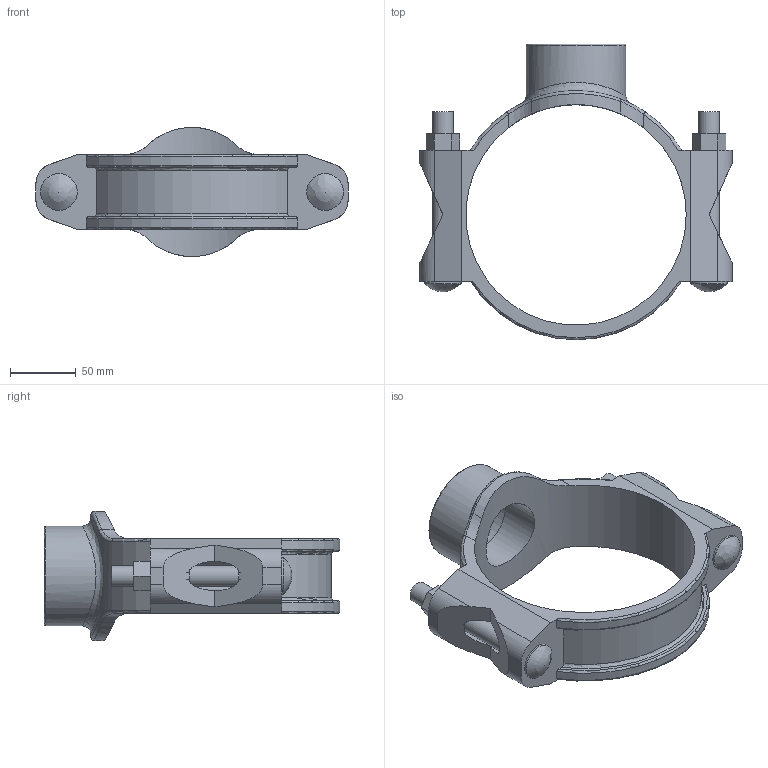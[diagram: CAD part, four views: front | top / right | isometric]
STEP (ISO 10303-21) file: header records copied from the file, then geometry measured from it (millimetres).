
FILE_DESCRIPTION(/* description */ ('VIC SS MECHANICAL T BRANCH OUTLET STYLE 422 (BSPT)','CAx-IF Rec.Pracs.---Representation and Presentation of Product Manufacturing Information (PMI)---4.0---2014-10-13'),/* implementation_level */ '2;1');
FILE_NAME(/* name */ 'C:\Files for Export\422\STEP\Victaulic_SS-OGS_Mech-Tee Out_Style 422 (BSPT)\Victaulic_SS-OGS_Mech-Tee Out_Style 422 (BSPT)_06.0x02.0 (150x50).stp',/* time_stamp */ '2023-03-28T14:27:08+02:00',/* author */ ('jheald'),/* organization */ ('Victaulic'),/* preprocessor_version */ 'ST-DEVELOPER v18.1',/* originating_system */ 'Autodesk Inventor 2020',/* authorisation */ '');
FILE_SCHEMA (('AP242_MANAGED_MODEL_BASED_3D_ENGINEERING_MIM_LF { 1 0 10303 442 1 1 4 }'));
Length unit declared in the file: inch
Products named in the file (1): 422-06.0x02.0
Bounding box: 238.25 x 225.55 x 98.55 mm (x, y, z)
Volume: 595842.3 mm3; surface area: 132472.7 mm2
Topology: 1 solids, 1 shells, 100 faces, 290 edges, 192 vertices
Faces by surface type: plane 48, cylinder 32, torus 11, bspline 9
Full cylindrical faces by diameter (mm): 15.875 x4, 27.94 x2, 52.387 x1, 60.325 x1, 76.2 x1, 168.275 x1
Entity records: 4220 total; most frequent: CARTESIAN_POINT 1352, ORIENTED_EDGE 576, DIRECTION 562, EDGE_CURVE 288, AXIS2_PLACEMENT_3D 206, VERTEX_POINT 192, LINE 150, VECTOR 150
